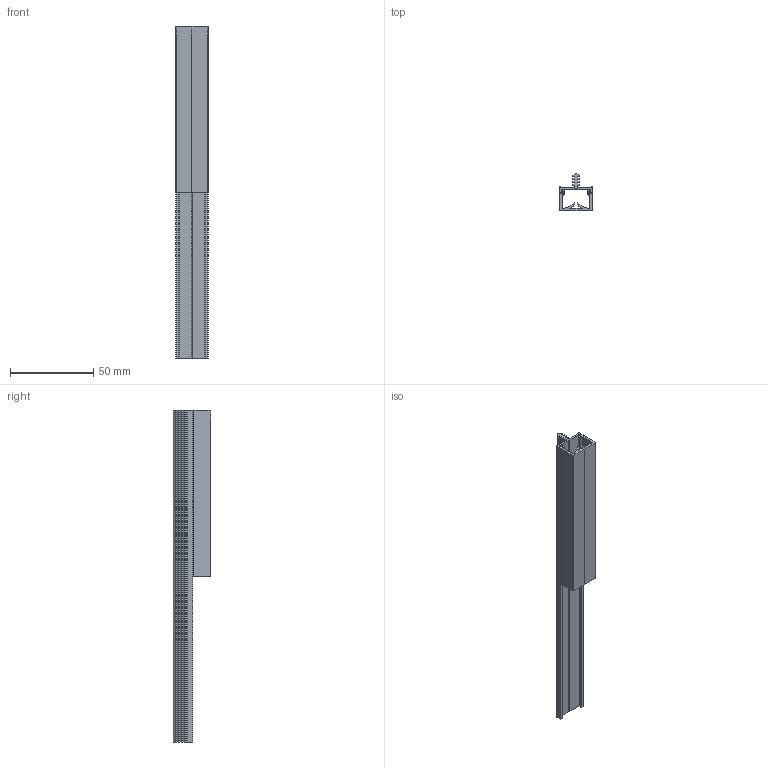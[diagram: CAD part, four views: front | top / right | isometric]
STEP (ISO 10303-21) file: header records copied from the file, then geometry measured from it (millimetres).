
FILE_DESCRIPTION (( 'STEP AP203' ), '1' );
FILE_NAME ('2000475-77_LED Aufbauprofil Lagos 1-3.STEP', '2021-01-15T08:30:54', ( '' ), ( '' ), 'SwSTEP 2.0', 'SolidWorks 2018', '' );
FILE_SCHEMA (( 'CONFIG_CONTROL_DESIGN' ));
Length unit declared in the file: millimetre
Products named in the file (3): 1778396 Aufbauprofil Lagos II; 2000475-77_LED Aufbauprofil Lagos 1-3; 6201088
Assembly tree (2 placements, depth 2):
  2000475-77_LED Aufbauprofil Lagos 1-3
    1778396 Aufbauprofil Lagos II
    6201088
Bounding box: 19.66 x 22.61 x 200 mm (x, y, z)
Volume: 17334.2 mm3; surface area: 27771.8 mm2
Topology: 2 solids, 2 shells, 139 faces, 405 edges, 270 vertices
Faces by surface type: cylinder 84, plane 55
Entity records: 4972 total; most frequent: DIRECTION 861, CARTESIAN_POINT 819, ORIENTED_EDGE 810, EDGE_CURVE 405, AXIS2_PLACEMENT_3D 312, VERTEX_POINT 270, VECTOR 237, LINE 237
